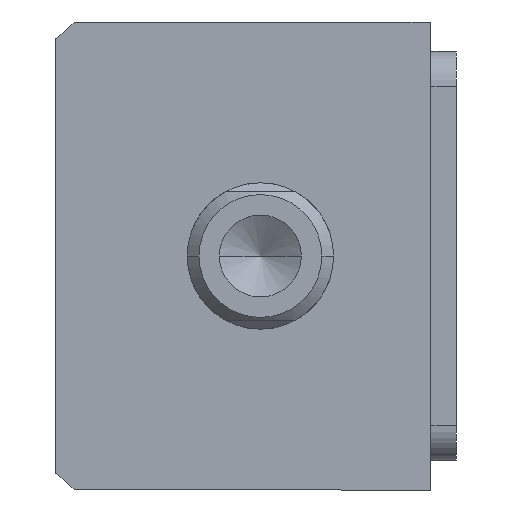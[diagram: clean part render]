
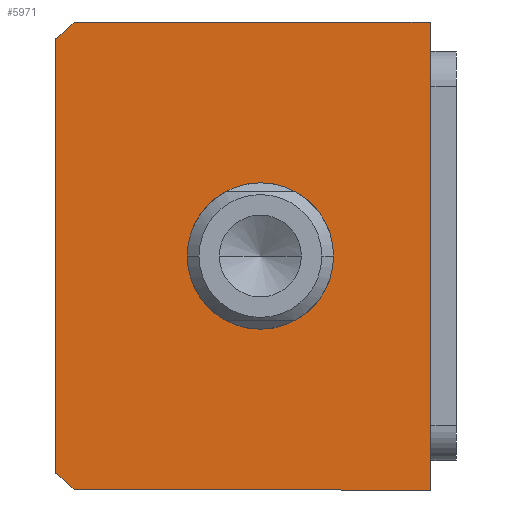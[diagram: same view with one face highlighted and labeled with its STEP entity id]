
A CAD part, front view. The second image highlights one B-rep face of the part: STEP entity #5971.
In plain terms, the highlighted planar face has unit normal (0, -1, 0) as drawn and (0, 0, -1) by its records, which use the part's own axes.
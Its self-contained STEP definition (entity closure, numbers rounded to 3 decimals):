
#3 = DIRECTION ( 'NONE',  ( 1., 0., 0. ) ) ;
#54 = DIRECTION ( 'NONE',  ( 0., 0., 1. ) ) ;
#65 = DIRECTION ( 'NONE',  ( 1., 0., 0. ) ) ;
#82 = VERTEX_POINT ( 'NONE', #452 ) ;
#441 = CARTESIAN_POINT ( 'NONE',  ( 40., 32., 0. ) ) ;
#452 = CARTESIAN_POINT ( 'NONE',  ( 40., 32., 0. ) ) ;
#463 = EDGE_CURVE ( 'NONE', #5815, #830, #9284, .T. ) ;
#630 = ORIENTED_EDGE ( 'NONE', *, *, #463, .T. ) ;
#702 = PLANE ( 'NONE',  #6281 ) ;
#830 = VERTEX_POINT ( 'NONE', #1339 ) ;
#1076 = DIRECTION ( 'NONE',  ( 1., 0., 0. ) ) ;
#1190 = FACE_OUTER_BOUND ( 'NONE', #9068, .T. ) ;
#1339 = CARTESIAN_POINT ( 'NONE',  ( -12.5, 3., 0. ) ) ;
#1373 = CARTESIAN_POINT ( 'NONE',  ( -40., 32., 0. ) ) ;
#1524 = DIRECTION ( 'NONE',  ( 0., 0., 1. ) ) ;
#1585 = CARTESIAN_POINT ( 'NONE',  ( -40., 32., 0. ) ) ;
#1897 = CARTESIAN_POINT ( 'NONE',  ( 0., 3., 0. ) ) ;
#2132 = EDGE_CURVE ( 'NONE', #7643, #82, #2571, .T. ) ;
#2293 = ORIENTED_EDGE ( 'NONE', *, *, #9119, .F. ) ;
#2456 = VERTEX_POINT ( 'NONE', #7011 ) ;
#2477 = EDGE_CURVE ( 'NONE', #3710, #2935, #9561, .T. ) ;
#2571 = LINE ( 'NONE', #441, #6712 ) ;
#2589 = CARTESIAN_POINT ( 'NONE',  ( -37.094, -32., 0. ) ) ;
#2617 = AXIS2_PLACEMENT_3D ( 'NONE', #9976, #5030, #65 ) ;
#2834 = ORIENTED_EDGE ( 'NONE', *, *, #5360, .T. ) ;
#2935 = VERTEX_POINT ( 'NONE', #2589 ) ;
#2962 = EDGE_CURVE ( 'NONE', #2935, #2456, #7235, .T. ) ;
#3214 = ORIENTED_EDGE ( 'NONE', *, *, #4113, .F. ) ;
#3259 = LINE ( 'NONE', #3877, #5715 ) ;
#3710 = VERTEX_POINT ( 'NONE', #6478 ) ;
#3877 = CARTESIAN_POINT ( 'NONE',  ( -40., 32., 0. ) ) ;
#4113 = EDGE_CURVE ( 'NONE', #10102, #3710, #3259, .T. ) ;
#4250 = CIRCLE ( 'NONE', #5016, 51. ) ;
#4482 = EDGE_CURVE ( 'NONE', #82, #10102, #8298, .T. ) ;
#4973 = DIRECTION ( 'NONE',  ( 0., 0., 1. ) ) ;
#5016 = AXIS2_PLACEMENT_3D ( 'NONE', #5018, #54, #5846 ) ;
#5018 = CARTESIAN_POINT ( 'NONE',  ( 0., 3., 0. ) ) ;
#5030 = DIRECTION ( 'NONE',  ( 0., 0., 1. ) ) ;
#5360 = EDGE_CURVE ( 'NONE', #830, #5815, #8704, .T. ) ;
#5715 = VECTOR ( 'NONE', #6373, 1000. ) ;
#5815 = VERTEX_POINT ( 'NONE', #8005 ) ;
#5846 = DIRECTION ( 'NONE',  ( 1., 0., 0. ) ) ;
#5907 = CARTESIAN_POINT ( 'NONE',  ( -40., -32., 0. ) ) ;
#5971 = ADVANCED_FACE ( 'NONE', ( #7790, #1190 ), #702, .F. ) ;
#6147 = DIRECTION ( 'NONE',  ( 1., 0., 0. ) ) ;
#6281 = AXIS2_PLACEMENT_3D ( 'NONE', #10577, #1524, #7320 ) ;
#6326 = DIRECTION ( 'NONE',  ( 0., 1., 0. ) ) ;
#6373 = DIRECTION ( 'NONE',  ( 0., -1., 0. ) ) ;
#6478 = CARTESIAN_POINT ( 'NONE',  ( -40., -28.639, 0. ) ) ;
#6712 = VECTOR ( 'NONE', #6326, 1000. ) ;
#6852 = DIRECTION ( 'NONE',  ( 0., 0., 1. ) ) ;
#7011 = CARTESIAN_POINT ( 'NONE',  ( 37.094, -32., 0. ) ) ;
#7169 = DIRECTION ( 'NONE',  ( -1., 0., 0. ) ) ;
#7235 = LINE ( 'NONE', #5907, #9159 ) ;
#7320 = DIRECTION ( 'NONE',  ( 1., 0., 0. ) ) ;
#7335 = ORIENTED_EDGE ( 'NONE', *, *, #2477, .F. ) ;
#7643 = VERTEX_POINT ( 'NONE', #8961 ) ;
#7780 = VECTOR ( 'NONE', #7169, 1000. ) ;
#7790 = FACE_BOUND ( 'NONE', #9390, .T. ) ;
#7812 = AXIS2_PLACEMENT_3D ( 'NONE', #9923, #4973, #3 ) ;
#7972 = ORIENTED_EDGE ( 'NONE', *, *, #2132, .F. ) ;
#8005 = CARTESIAN_POINT ( 'NONE',  ( 12.5, 3., 0. ) ) ;
#8298 = LINE ( 'NONE', #1373, #7780 ) ;
#8556 = ORIENTED_EDGE ( 'NONE', *, *, #2962, .F. ) ;
#8704 = CIRCLE ( 'NONE', #7812, 12.5 ) ;
#8934 = ORIENTED_EDGE ( 'NONE', *, *, #4482, .F. ) ;
#8961 = CARTESIAN_POINT ( 'NONE',  ( 40., -28.639, 0. ) ) ;
#9068 = EDGE_LOOP ( 'NONE', ( #7335, #3214, #8934, #7972, #2293, #8556 ) ) ;
#9119 = EDGE_CURVE ( 'NONE', #2456, #7643, #4250, .T. ) ;
#9159 = VECTOR ( 'NONE', #6147, 1000. ) ;
#9284 = CIRCLE ( 'NONE', #2617, 12.5 ) ;
#9390 = EDGE_LOOP ( 'NONE', ( #630, #2834 ) ) ;
#9409 = AXIS2_PLACEMENT_3D ( 'NONE', #1897, #6852, #1076 ) ;
#9561 = CIRCLE ( 'NONE', #9409, 51. ) ;
#9923 = CARTESIAN_POINT ( 'NONE',  ( 0., 3., 0. ) ) ;
#9976 = CARTESIAN_POINT ( 'NONE',  ( 0., 3., 0. ) ) ;
#10102 = VERTEX_POINT ( 'NONE', #1585 ) ;
#10577 = CARTESIAN_POINT ( 'NONE',  ( 0., 0., 0. ) ) ;
